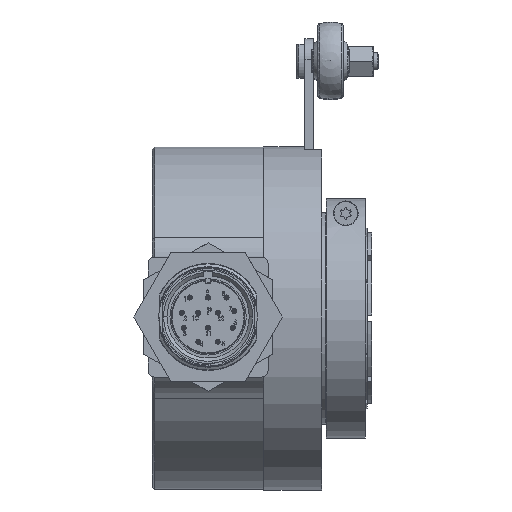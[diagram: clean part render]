
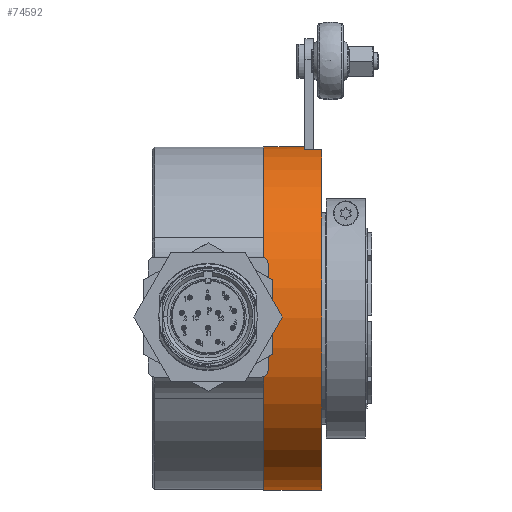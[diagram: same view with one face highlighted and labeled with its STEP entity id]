
A CAD part, top view. The second image highlights one B-rep face of the part: STEP entity #74592.
In plain terms, the highlighted cylindrical face has radius 40.075 mm (diameter 80.15 mm), a partial arc.
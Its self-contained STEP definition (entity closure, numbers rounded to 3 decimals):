
#727 = EDGE_LOOP ( 'NONE', ( #28414, #60721, #42198, #70868, #77277, #45261 ) ) ;
#1087 = CYLINDRICAL_SURFACE ( 'NONE', #56903, 40.075 ) ;
#1417 = CARTESIAN_POINT ( 'NONE',  ( 0., 40.075, 0. ) ) ;
#2460 = CARTESIAN_POINT ( 'NONE',  ( -12.775, 39.468, 6.95 ) ) ;
#3528 = DIRECTION ( 'NONE',  ( -1., 0., 0. ) ) ;
#13448 = LINE ( 'NONE', #32629, #50442 ) ;
#13486 = CARTESIAN_POINT ( 'NONE',  ( 0., 0., 0. ) ) ;
#13616 = DIRECTION ( 'NONE',  ( -1., 0., 0. ) ) ;
#16044 = AXIS2_PLACEMENT_3D ( 'NONE', #72233, #19280, #65966 ) ;
#19280 = DIRECTION ( 'NONE',  ( -1., 0., 0. ) ) ;
#19875 = EDGE_CURVE ( 'NONE', #62010, #29637, #27012, .T. ) ;
#20128 = DIRECTION ( 'NONE',  ( 0., 1., 0. ) ) ;
#22284 = CARTESIAN_POINT ( 'NONE',  ( -12.775, -40.075, 0. ) ) ;
#23206 = VECTOR ( 'NONE', #26800, 1000. ) ;
#23920 = EDGE_CURVE ( 'NONE', #73118, #55391, #76143, .T. ) ;
#25026 = DIRECTION ( 'NONE',  ( 0., 1., 0. ) ) ;
#26800 = DIRECTION ( 'NONE',  ( -1., 0., 0. ) ) ;
#27012 = CIRCLE ( 'NONE', #45751, 40.075 ) ;
#28414 = ORIENTED_EDGE ( 'NONE', *, *, #59123, .F. ) ;
#29637 = VERTEX_POINT ( 'NONE', #59053 ) ;
#30897 = FACE_OUTER_BOUND ( 'NONE', #727, .T. ) ;
#32262 = LINE ( 'NONE', #2460, #23206 ) ;
#32629 = CARTESIAN_POINT ( 'NONE',  ( -12.775, 40.075, 0. ) ) ;
#33316 = CARTESIAN_POINT ( 'NONE',  ( 13.5, 0., 0. ) ) ;
#34815 = DIRECTION ( 'NONE',  ( -1., 0., 0. ) ) ;
#39464 = EDGE_CURVE ( 'NONE', #29637, #73118, #32262, .T. ) ;
#42198 = ORIENTED_EDGE ( 'NONE', *, *, #39464, .T. ) ;
#42594 = EDGE_CURVE ( 'NONE', #55391, #62749, #13448, .T. ) ;
#45261 = ORIENTED_EDGE ( 'NONE', *, *, #59766, .F. ) ;
#45751 = AXIS2_PLACEMENT_3D ( 'NONE', #33316, #3528, #68640 ) ;
#47042 = VERTEX_POINT ( 'NONE', #69036 ) ;
#47830 = CARTESIAN_POINT ( 'NONE',  ( 9.5, 39.468, 6.95 ) ) ;
#48371 = CARTESIAN_POINT ( 'NONE',  ( 13.5, -40.075, 0. ) ) ;
#48402 = CARTESIAN_POINT ( 'NONE',  ( 9.5, 40.075, 0. ) ) ;
#48531 = CARTESIAN_POINT ( 'NONE',  ( -12.775, 0., 0. ) ) ;
#50442 = VECTOR ( 'NONE', #73826, 1000. ) ;
#53944 = AXIS2_PLACEMENT_3D ( 'NONE', #13486, #66462, #20128 ) ;
#55391 = VERTEX_POINT ( 'NONE', #48402 ) ;
#56511 = VECTOR ( 'NONE', #34815, 1000. ) ;
#56903 = AXIS2_PLACEMENT_3D ( 'NONE', #48531, #13616, #25026 ) ;
#59053 = CARTESIAN_POINT ( 'NONE',  ( 13.5, 39.468, 6.95 ) ) ;
#59123 = EDGE_CURVE ( 'NONE', #62010, #47042, #64631, .T. ) ;
#59766 = EDGE_CURVE ( 'NONE', #47042, #62749, #76496, .T. ) ;
#60721 = ORIENTED_EDGE ( 'NONE', *, *, #19875, .T. ) ;
#62010 = VERTEX_POINT ( 'NONE', #48371 ) ;
#62749 = VERTEX_POINT ( 'NONE', #1417 ) ;
#64631 = LINE ( 'NONE', #22284, #56511 ) ;
#65966 = DIRECTION ( 'NONE',  ( 0., 1., 0. ) ) ;
#66462 = DIRECTION ( 'NONE',  ( -1., 0., 0. ) ) ;
#68640 = DIRECTION ( 'NONE',  ( 0., 1., 0. ) ) ;
#69036 = CARTESIAN_POINT ( 'NONE',  ( 0., -40.075, 0. ) ) ;
#70868 = ORIENTED_EDGE ( 'NONE', *, *, #23920, .T. ) ;
#72233 = CARTESIAN_POINT ( 'NONE',  ( 9.5, 0., 0. ) ) ;
#73118 = VERTEX_POINT ( 'NONE', #47830 ) ;
#73826 = DIRECTION ( 'NONE',  ( -1., 0., 0. ) ) ;
#74592 = ADVANCED_FACE ( 'NONE', ( #30897 ), #1087, .T. ) ;
#76143 = CIRCLE ( 'NONE', #16044, 40.075 ) ;
#76496 = CIRCLE ( 'NONE', #53944, 40.075 ) ;
#77277 = ORIENTED_EDGE ( 'NONE', *, *, #42594, .T. ) ;
